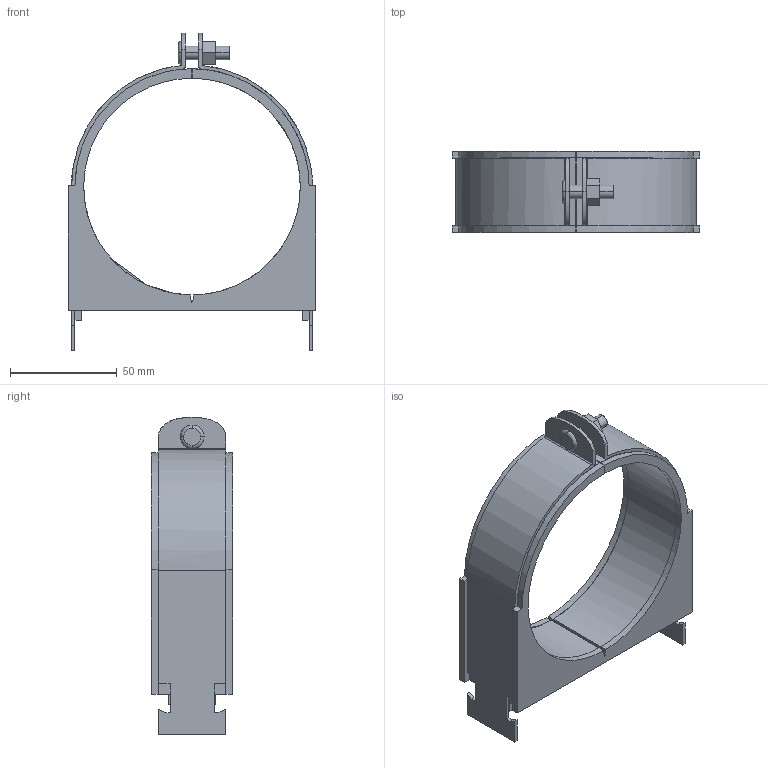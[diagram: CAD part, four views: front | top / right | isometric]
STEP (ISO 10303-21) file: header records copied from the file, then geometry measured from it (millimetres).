
FILE_DESCRIPTION(('TurboCAD Mac Pro'),'Build 980');
FILE_NAME('064N072.stp',' ',(''),(''),'ACIS Interop','IMSI','TurboCAD Mac Pro BY IMSI, INCORPORATED');
FILE_SCHEMA(('automotive_design'));
Length unit declared in the file: inch
Products named in the file (3): 1; 2; 3
Bounding box: 116.21 x 38.1 x 148.84 mm (x, y, z)
Volume: 136436 mm3; surface area: 59446 mm2
Topology: 3 solids, 3 shells, 151 faces, 400 edges, 258 vertices
Faces by surface type: plane 105, bspline 46
Entity records: 7294 total; most frequent: CARTESIAN_POINT 1790, ORIENTED_EDGE 800, DIRECTION 508, EDGE_CURVE 400, STYLED_ITEM 324, PRESENTATION_STYLE_ASSIGNMENT 324, COLOUR_RGB 324, LINE 284
